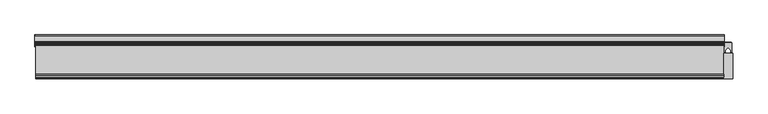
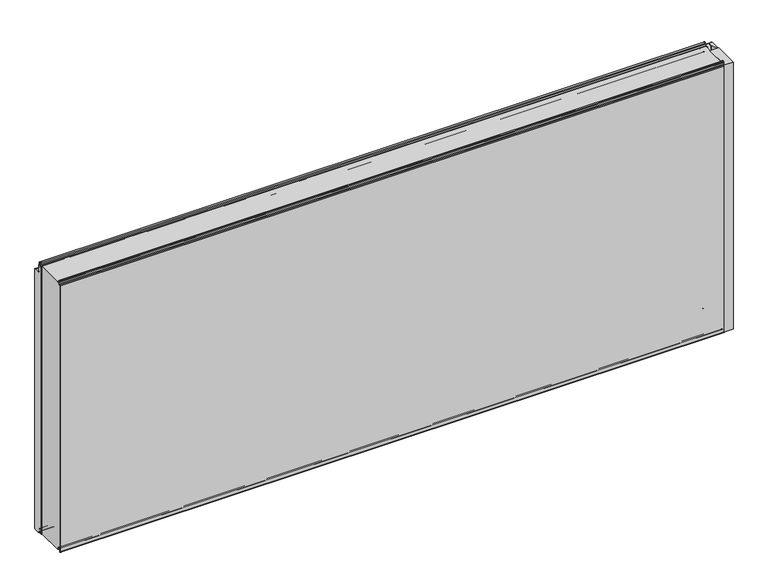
"""IFC4 building model written with IfcOpenShell, lengths in millimetres: plate geometry, Fronttop : Fronttop 150/1000."""

from ifc_helpers import new_model, si_unit, point, frame, frame_2d, origin, origin_with_axes, place, context, project, spatial, polyline, circle_curve, trimmed, segment, composite_curve, outline, extrude, source, transform, mapped, element, save
from ifc_brep_helpers import plane_surface, cylinder_surface, revolved_surface, advanced_brep


def plate_190e3803(model_context):
    return source(origin(), model_context, "Body", "SolidModel", [
        advanced_brep(
        [(-1176.5, 124.0, 1008.0), (-1176.5, 121.0, 1008.0), (-1176.5, 121.0, 1004.0), (-1176.5, 117.0, 1000.0), (-1176.5, 115.0, 1000.0), (-1176.5, 115.0, 1001.0), (-1176.5, 117.0, 1001.0), (-1176.5, 120.0, 1004.0), (-1176.5, 120.0, 1008.0), (-1176.5, 125.0, 1008.0), (-1176.5, 125.0, 1000.0), (-1176.5, 124.0, 1000.0), (1176.5, 125.0, 1008.0), (1176.5, 120.0, 1008.0), (1176.5, 120.0, 1004.0), (1176.5, 117.0, 1001.0), (1176.5, 115.0, 1001.0), (1176.5, 115.0, 1000.0), (1176.5, 117.0, 1000.0), (1176.5, 121.0, 1004.0), (1176.5, 121.0, 1008.0), (1176.5, 124.0, 1008.0), (1176.5, 124.0, 1000.0), (1176.5, 125.0, 1000.0), (-1176.5, 117.0, 2.0), (1176.5, 117.0, 2.0), (1176.5, 115.0, 2.0), (-1176.5, 115.0, 2.0), (-1176.5, 119.0, 4.0), (1176.5, 119.0, 4.0), (-1176.5, 119.0, 8.0), (1176.5, 119.0, 8.0), (-1176.5, 126.0, 8.0), (1176.5, 126.0, 8.0), (-1176.5, 126.0, 0.0), (1176.5, 126.0, 0.0), (-1176.5, 129.0, -3.0), (1176.5, 129.0, -3.0), (-1176.5, 125.0, -3.0), (-1177.5, 125.0, -3.0), (-1177.5, 147.0, -3.0), (-1176.5, 147.0, -3.0), (1176.5, 147.0, -3.0), (1177.5, 147.0, -3.0), (1177.5, 125.0, -3.0), (1176.5, 125.0, -3.0), (-1176.5, 150.0, 0.0), (1176.5, 150.0, 0.0), (-1177.5, 150.0, 0.0), (-1177.5, 150.0, 969.0), (-1176.5, 150.0, 969.0), (1176.5, 150.0, 969.0), (1177.5, 150.0, 969.0), (1177.5, 150.0, 0.0), (-1176.5, 147.0, 972.0), (1176.5, 147.0, 972.0), (-1177.5, 147.0, 972.0), (-1177.5, 128.0, 972.0), (-1176.5, 128.0, 972.0), (1176.5, 128.0, 972.0), (1177.5, 128.0, 972.0), (1177.5, 147.0, 972.0), (-1176.5, 125.0, 975.0), (1176.5, 125.0, 975.0), (-1177.5, 125.0, 975.0), (-1177.5, 125.0, 1000.0), (1177.5, 125.0, 1000.0), (1177.5, 125.0, 975.0), (-1176.5, 124.0, 975.0), (1176.5, 124.0, 975.0), (-1176.5, 128.0, 971.0), (1176.5, 128.0, 971.0), (-1176.5, 147.0, 971.0), (1176.5, 147.0, 971.0), (-1176.5, 149.0, 969.0), (1176.5, 149.0, 969.0), (-1176.5, 149.0, 0.0), (1176.5, 149.0, 0.0), (-1176.5, 147.0, -2.0), (1176.5, 147.0, -2.0), (-1176.5, 129.0, -2.0), (1176.5, 129.0, -2.0), (-1176.5, 127.0, 0.0), (1176.5, 127.0, 0.0), (-1176.5, 127.0, 8.0), (1176.5, 127.0, 8.0), (-1176.5, 118.0, 8.0), (1176.5, 118.0, 8.0), (-1176.5, 118.0, 4.0), (1176.5, 118.0, 4.0), (-1176.5, 117.0, 3.0), (1176.5, 117.0, 3.0), (-1176.5, 115.0, 3.0), (1176.5, 115.0, 3.0), (1177.5, 110.0, 1000.0), (1177.5, 110.0, 0.0), (1177.5, 125.0, 0.0), (1176.5, 125.0, 0.0), (1176.5, 110.0, 0.0), (1176.5, 110.0, 1000.0), (-1177.5, 125.0, 0.0), (-1177.5, 110.0, 0.0), (-1177.5, 110.0, 1000.0), (-1176.5, 110.0, 1000.0), (-1176.5, 110.0, 0.0), (-1176.5, 125.0, 0.0)],
        [
            (0, 1, circle_curve(frame((-1176.5, 122.5, 1008.0), z_axis=(1.0, 0.0, 0.0), x_axis=(0.0, -1.0, 0.0)), 1.5)),
            (1, 2),
            (2, 3, circle_curve(frame((-1176.5, 117.0, 1004.0), z_axis=(-1.0, 0.0, 0.0), x_axis=(0.0, -1.0, 0.0)), 4.0)),
            (3, 4),
            (4, 5),
            (5, 6),
            (6, 7, circle_curve(frame((-1176.5, 117.0, 1004.0), z_axis=(1.0, 0.0, 0.0), x_axis=(0.0, -1.0, 0.0)), 3.0)),
            (7, 8),
            (8, 9, circle_curve(frame((-1176.5, 122.5, 1008.0), z_axis=(-1.0, 0.0, 0.0), x_axis=(0.0, -1.0, 0.0)), 2.5)),
            (9, 10),
            (10, 11),
            (11, 0),
            (12, 13, circle_curve(frame((1176.5, 122.5, 1008.0), z_axis=(1.0, 0.0, 0.0), x_axis=(0.0, -1.0, 0.0)), 2.5)),
            (13, 14),
            (14, 15, circle_curve(frame((1176.5, 117.0, 1004.0), z_axis=(-1.0, 0.0, 0.0), x_axis=(0.0, -1.0, 0.0)), 3.0)),
            (15, 16),
            (16, 17),
            (17, 18),
            (18, 19, circle_curve(frame((1176.5, 117.0, 1004.0), z_axis=(1.0, 0.0, 0.0), x_axis=(0.0, -1.0, 0.0)), 4.0)),
            (19, 20),
            (20, 21, circle_curve(frame((1176.5, 122.5, 1008.0), z_axis=(-1.0, 0.0, 0.0), x_axis=(0.0, -1.0, 0.0)), 1.5)),
            (21, 22),
            (22, 23),
            (23, 12),
            (24, 25),
            (25, 26),
            (26, 27),
            (27, 24),
            (24, 28, circle_curve(frame((-1176.5, 117.0, 4.0), z_axis=(1.0, 0.0, 0.0), x_axis=(0.0, -1.0, 0.0)), 2.0)),
            (28, 29),
            (29, 25, circle_curve(frame((1176.5, 117.0, 4.0), z_axis=(-1.0, 0.0, 0.0), x_axis=(0.0, -1.0, 0.0)), 2.0)),
            (28, 30),
            (30, 31),
            (31, 29),
            (30, 32, circle_curve(frame((-1176.5, 122.5, 8.0), z_axis=(-1.0, 0.0, 0.0), x_axis=(0.0, -1.0, 0.0)), 3.5)),
            (32, 33),
            (33, 31, circle_curve(frame((1176.5, 122.5, 8.0), z_axis=(1.0, 0.0, 0.0), x_axis=(0.0, -1.0, 0.0)), 3.5)),
            (32, 34),
            (34, 35),
            (35, 33),
            (34, 36, circle_curve(frame((-1176.5, 129.0, 0.0), z_axis=(1.0, 0.0, 0.0), x_axis=(0.0, -1.0, 0.0)), 3.0)),
            (36, 37),
            (37, 35, circle_curve(frame((1176.5, 129.0, 0.0), z_axis=(-1.0, 0.0, 0.0), x_axis=(0.0, -1.0, 0.0)), 3.0)),
            (36, 38),
            (38, 39),
            (39, 40),
            (40, 41),
            (41, 42),
            (42, 43),
            (43, 44),
            (44, 45),
            (45, 37),
            (41, 46, circle_curve(frame((-1176.5, 147.0, 0.0), z_axis=(1.0, 0.0, 0.0), x_axis=(0.0, -1.0, 0.0)), 3.0)),
            (46, 47),
            (47, 42, circle_curve(frame((1176.5, 147.0, 0.0), z_axis=(-1.0, 0.0, 0.0), x_axis=(0.0, -1.0, 0.0)), 3.0)),
            (46, 48),
            (48, 49),
            (49, 50),
            (50, 51),
            (51, 52),
            (52, 53),
            (53, 47),
            (50, 54, circle_curve(frame((-1176.5, 147.0, 969.0), z_axis=(1.0, 0.0, 0.0), x_axis=(0.0, -1.0, 0.0)), 3.0)),
            (54, 55),
            (55, 51, circle_curve(frame((1176.5, 147.0, 969.0), z_axis=(-1.0, 0.0, 0.0), x_axis=(0.0, -1.0, 0.0)), 3.0)),
            (54, 56),
            (56, 57),
            (57, 58),
            (58, 59),
            (59, 60),
            (60, 61),
            (61, 55),
            (58, 62, circle_curve(frame((-1176.5, 128.0, 975.0), z_axis=(-1.0, 0.0, 0.0), x_axis=(0.0, -1.0, 0.0)), 3.0)),
            (62, 63),
            (63, 59, circle_curve(frame((1176.5, 128.0, 975.0), z_axis=(1.0, 0.0, 0.0), x_axis=(0.0, -1.0, 0.0)), 3.0)),
            (62, 64),
            (64, 65),
            (65, 10),
            (9, 12),
            (23, 66),
            (66, 67),
            (67, 63),
            (8, 13),
            (7, 14),
            (6, 15),
            (5, 16),
            (4, 17),
            (4, 3),
            (3, 18),
            (18, 17),
            (2, 19),
            (1, 20),
            (0, 21),
            (11, 68),
            (68, 69),
            (69, 22),
            (68, 70, circle_curve(frame((-1176.5, 128.0, 975.0), z_axis=(1.0, 0.0, 0.0), x_axis=(0.0, -1.0, 0.0)), 4.0)),
            (70, 71),
            (71, 69, circle_curve(frame((1176.5, 128.0, 975.0), z_axis=(-1.0, 0.0, 0.0), x_axis=(0.0, -1.0, 0.0)), 4.0)),
            (70, 72),
            (72, 73),
            (73, 71),
            (72, 74, circle_curve(frame((-1176.5, 147.0, 969.0), z_axis=(-1.0, 0.0, 0.0), x_axis=(0.0, -1.0, 0.0)), 2.0)),
            (74, 75),
            (75, 73, circle_curve(frame((1176.5, 147.0, 969.0), z_axis=(1.0, 0.0, 0.0), x_axis=(0.0, -1.0, 0.0)), 2.0)),
            (74, 76),
            (76, 77),
            (77, 75),
            (76, 78, circle_curve(frame((-1176.5, 147.0, 0.0), z_axis=(-1.0, 0.0, 0.0), x_axis=(0.0, -1.0, 0.0)), 2.0)),
            (78, 79),
            (79, 77, circle_curve(frame((1176.5, 147.0, 0.0), z_axis=(1.0, 0.0, 0.0), x_axis=(0.0, -1.0, 0.0)), 2.0)),
            (78, 80),
            (80, 81),
            (81, 79),
            (80, 82, circle_curve(frame((-1176.5, 129.0, 0.0), z_axis=(-1.0, 0.0, 0.0), x_axis=(0.0, -1.0, 0.0)), 2.0)),
            (82, 83),
            (83, 81, circle_curve(frame((1176.5, 129.0, 0.0), z_axis=(1.0, 0.0, 0.0), x_axis=(0.0, -1.0, 0.0)), 2.0)),
            (82, 84),
            (84, 85),
            (85, 83),
            (84, 86, circle_curve(frame((-1176.5, 122.5, 8.0), z_axis=(1.0, 0.0, 0.0), x_axis=(0.0, -1.0, 0.0)), 4.5)),
            (86, 87),
            (87, 85, circle_curve(frame((1176.5, 122.5, 8.0), z_axis=(-1.0, 0.0, 0.0), x_axis=(0.0, -1.0, 0.0)), 4.5)),
            (86, 88),
            (88, 89),
            (89, 87),
            (88, 90, circle_curve(frame((-1176.5, 117.0, 4.0), z_axis=(-1.0, 0.0, 0.0), x_axis=(0.0, -1.0, 0.0)), 1.0)),
            (90, 91),
            (91, 89, circle_curve(frame((1176.5, 117.0, 4.0), z_axis=(1.0, 0.0, 0.0), x_axis=(0.0, -1.0, 0.0)), 1.0)),
            (90, 92),
            (92, 93),
            (93, 91),
            (26, 93),
            (92, 27),
            (66, 94),
            (94, 95),
            (95, 96),
            (96, 44),
            (43, 53, circle_curve(frame((1177.5, 147.0, 0.0), z_axis=(1.0, 0.0, 0.0), x_axis=(0.0, 1.0, 0.0)), 3.0)),
            (52, 61, circle_curve(frame((1177.5, 147.0, 969.0), z_axis=(1.0, 0.0, 0.0), x_axis=(0.0, 1.0, 0.0)), 3.0)),
            (60, 67, circle_curve(frame((1177.5, 128.0, 975.0), z_axis=(-1.0, 0.0, 0.0), x_axis=(0.0, 1.0, 0.0)), 3.0)),
            (45, 97),
            (97, 98),
            (98, 99),
            (99, 17),
            (18, 22),
            (99, 94),
            (98, 95),
            (97, 96),
            (64, 57, circle_curve(frame((-1177.5, 128.0, 975.0), z_axis=(1.0, 0.0, 0.0), x_axis=(0.0, 1.0, 0.0)), 3.0)),
            (56, 49, circle_curve(frame((-1177.5, 147.0, 969.0), z_axis=(-1.0, 0.0, 0.0), x_axis=(0.0, 1.0, 0.0)), 3.0)),
            (48, 40, circle_curve(frame((-1177.5, 147.0, 0.0), z_axis=(-1.0, 0.0, 0.0), x_axis=(0.0, 1.0, 0.0)), 3.0)),
            (39, 100),
            (100, 101),
            (101, 102),
            (102, 65),
            (103, 104),
            (104, 105),
            (105, 38),
            (11, 3),
            (4, 103),
            (102, 103),
            (101, 104),
            (100, 105),
        ],
        [
            plane_surface(frame((-1176.5, 0.0, 0.0), z_axis=(-1.0, 0.0, 0.0), x_axis=(0.0, 0.0, 1.0))),
            plane_surface(frame((1176.5, 0.0, 0.0), z_axis=(1.0, 0.0, 0.0), x_axis=(0.0, 0.0, 1.0))),
            plane_surface(frame((-1176.5, 117.0, 2.0), z_axis=(0.0, 0.0, -1.0), x_axis=(1.0, 0.0, 0.0))),
            cylinder_surface(frame((-1176.5, 117.0, 4.0), z_axis=(-1.0, 0.0, 0.0), x_axis=(0.0, -1.0, 0.0)), 2.0),
            plane_surface(frame((-1176.5, 119.0, 8.0), z_axis=(0.0, 1.0, 0.0), x_axis=(1.0, 0.0, 0.0))),
            revolved_surface(polyline([(1176.5, 119.0, 8.0), (-1176.5, 119.0, 8.0)]), (-1176.5, 122.5, 8.0), (1.0, 0.0, 0.0)),
            plane_surface(frame((-1176.5, 126.0, 0.0), z_axis=(0.0, -1.0, 0.0), x_axis=(1.0, 0.0, 0.0))),
            cylinder_surface(frame((-1176.5, 129.0, 0.0), z_axis=(-1.0, 0.0, 0.0), x_axis=(0.0, -1.0, 0.0)), 3.0),
            plane_surface(frame((-1176.5, 147.0, -3.0), z_axis=(0.0, 0.0, -1.0), x_axis=(1.0, 0.0, 0.0))),
            cylinder_surface(frame((-1176.5, 147.0, 0.0), z_axis=(-1.0, 0.0, 0.0), x_axis=(0.0, -1.0, 0.0)), 3.0),
            plane_surface(frame((-1176.5, 150.0, 969.0), z_axis=(0.0, 1.0, 0.0), x_axis=(1.0, 0.0, 0.0))),
            cylinder_surface(frame((-1176.5, 147.0, 969.0), z_axis=(-1.0, 0.0, 0.0), x_axis=(0.0, -1.0, 0.0)), 3.0),
            plane_surface(frame((-1176.5, 128.0, 972.0), z_axis=(0.0, 0.0, 1.0), x_axis=(1.0, 0.0, 0.0))),
            revolved_surface(polyline([(1176.5, 125.0, 975.0), (-1176.5, 125.0, 975.0)]), (-1176.5, 128.0, 975.0), (1.0, 0.0, 0.0)),
            plane_surface(frame((-1176.5, 125.0, 1008.0), z_axis=(0.0, 1.0, 0.0), x_axis=(1.0, 0.0, 0.0))),
            cylinder_surface(frame((-1176.5, 122.5, 1008.0), z_axis=(-1.0, 0.0, 0.0), x_axis=(0.0, -1.0, 0.0)), 2.5),
            plane_surface(frame((-1176.5, 120.0, 1004.0), z_axis=(0.0, -1.0, 0.0), x_axis=(1.0, 0.0, 0.0))),
            revolved_surface(polyline([(1176.5, 114.0, 1004.0), (-1176.5, 114.0, 1004.0)]), (-1176.5, 117.0, 1004.0), (1.0, 0.0, 0.0)),
            plane_surface(frame((-1176.5, 115.0, 1001.0), z_axis=(0.0, 0.0, 1.0), x_axis=(1.0, 0.0, 0.0))),
            plane_surface(frame((-1176.5, 115.0, 1000.0), z_axis=(0.0, -1.0, 0.0), x_axis=(1.0, 0.0, 0.0))),
            plane_surface(frame((-1176.5, 117.0, 1000.0), z_axis=(0.0, 0.0, -1.0), x_axis=(1.0, 0.0, 0.0))),
            cylinder_surface(frame((-1176.5, 117.0, 1004.0), z_axis=(-1.0, 0.0, 0.0), x_axis=(0.0, -1.0, 0.0)), 4.0),
            plane_surface(frame((-1176.5, 121.0, 1008.0), z_axis=(0.0, 1.0, 0.0), x_axis=(1.0, 0.0, 0.0))),
            revolved_surface(polyline([(1176.5, 121.0, 1008.0), (-1176.5, 121.0, 1008.0)]), (-1176.5, 122.5, 1008.0), (1.0, 0.0, 0.0)),
            plane_surface(frame((-1176.5, 124.0, 975.0), z_axis=(0.0, -1.0, 0.0), x_axis=(1.0, 0.0, 0.0))),
            cylinder_surface(frame((-1176.5, 128.0, 975.0), z_axis=(-1.0, 0.0, 0.0), x_axis=(0.0, -1.0, 0.0)), 4.0),
            plane_surface(frame((-1176.5, 147.0, 971.0), z_axis=(0.0, 0.0, -1.0), x_axis=(1.0, 0.0, 0.0))),
            revolved_surface(polyline([(1176.5, 145.0, 969.0), (-1176.5, 145.0, 969.0)]), (-1176.5, 147.0, 969.0), (1.0, 0.0, 0.0)),
            plane_surface(frame((-1176.5, 149.0, 0.0), z_axis=(0.0, -1.0, 0.0), x_axis=(1.0, 0.0, 0.0))),
            revolved_surface(polyline([(1176.5, 145.0, 0.0), (-1176.5, 145.0, 0.0)]), (-1176.5, 147.0, 0.0), (1.0, 0.0, 0.0)),
            plane_surface(frame((-1176.5, 129.0, -2.0), z_axis=(0.0, 0.0, 1.0), x_axis=(1.0, 0.0, 0.0))),
            revolved_surface(polyline([(1176.5, 127.0, 0.0), (-1176.5, 127.0, 0.0)]), (-1176.5, 129.0, 0.0), (1.0, 0.0, 0.0)),
            plane_surface(frame((-1176.5, 127.0, 8.0), z_axis=(0.0, 1.0, 0.0), x_axis=(1.0, 0.0, 0.0))),
            cylinder_surface(frame((-1176.5, 122.5, 8.0), z_axis=(-1.0, 0.0, 0.0), x_axis=(0.0, -1.0, 0.0)), 4.5),
            plane_surface(frame((-1176.5, 118.0, 4.0), z_axis=(0.0, -1.0, 0.0), x_axis=(1.0, 0.0, 0.0))),
            revolved_surface(polyline([(1176.5, 116.0, 4.0), (-1176.5, 116.0, 4.0)]), (-1176.5, 117.0, 4.0), (1.0, 0.0, 0.0)),
            plane_surface(frame((-1176.5, 115.0, 3.0), z_axis=(0.0, 0.0, 1.0), x_axis=(1.0, 0.0, 0.0))),
            plane_surface(frame((-1176.5, 115.0, 2.0), z_axis=(0.0, -1.0, 0.0), x_axis=(1.0, 0.0, 0.0))),
            plane_surface(frame((1177.5, 125.0, 1000.0), z_axis=(1.0, 0.0, 0.0), x_axis=(0.0, -1.0, 0.0))),
            plane_surface(frame((1176.5, 125.0, 1000.0), z_axis=(-1.0, 0.0, 0.0), x_axis=(0.0, 1.0, 0.0))),
            plane_surface(frame((1177.5, 125.0, 1000.0), z_axis=(0.0, 0.0, 1.0), x_axis=(-1.0, 0.0, 0.0))),
            plane_surface(frame((1177.5, 110.0, 1000.0), z_axis=(0.0, -1.0, 0.0), x_axis=(-1.0, 0.0, 0.0))),
            plane_surface(frame((1177.5, 110.0, 0.0), z_axis=(0.0, 0.0, -1.0), x_axis=(-1.0, 0.0, 0.0))),
            cylinder_surface(frame((1176.5, 147.0, 0.0), z_axis=(1.0, 0.0, 0.0), x_axis=(0.0, 1.0, 0.0)), 3.0),
            cylinder_surface(frame((1176.5, 147.0, 969.0), z_axis=(1.0, 0.0, 0.0), x_axis=(0.0, 1.0, 0.0)), 3.0),
            revolved_surface(polyline([(1176.5, 131.0, 975.0), (1177.5, 131.0, 975.0)]), (1176.5, 128.0, 975.0), (-1.0, 0.0, 0.0)),
            plane_surface(frame((-1177.5, 125.0, 1000.0), z_axis=(-1.0, 0.0, 0.0), x_axis=(0.0, 1.0, 0.0))),
            plane_surface(frame((-1176.5, 125.0, 1000.0), z_axis=(1.0, 0.0, 0.0), x_axis=(0.0, -1.0, 0.0))),
            plane_surface(frame((-1176.5, 125.0, 1000.0), z_axis=(0.0, 0.0, 1.0), x_axis=(-1.0, 0.0, 0.0))),
            plane_surface(frame((-1176.5, 110.0, 1000.0), z_axis=(0.0, -1.0, 0.0), x_axis=(-1.0, 0.0, 0.0))),
            plane_surface(frame((-1176.5, 110.0, 0.0), z_axis=(0.0, 0.0, -1.0), x_axis=(-1.0, 0.0, 0.0))),
            cylinder_surface(frame((-1177.5, 147.0, 0.0), z_axis=(1.0, 0.0, 0.0), x_axis=(0.0, 1.0, 0.0)), 3.0),
            cylinder_surface(frame((-1177.5, 147.0, 969.0), z_axis=(1.0, 0.0, 0.0), x_axis=(0.0, 1.0, 0.0)), 3.0),
            revolved_surface(polyline([(-1177.5, 131.0, 975.0), (-1176.5, 131.0, 975.0)]), (-1177.5, 128.0, 975.0), (-1.0, 0.0, 0.0)),
            plane_surface(frame((1177.5, 125.0, 0.0), z_axis=(0.0, -1.0, 0.0), x_axis=(-1.0, 0.0, 0.0))),
            plane_surface(frame((-1176.5, 125.0, 0.0), z_axis=(0.0, -1.0, 0.0), x_axis=(-1.0, 0.0, 0.0))),
        ],
        [
            (0, [[1, 2, 3, 4, 5, 6, 7, 8, 9, 10, 11, 12]]),
            (1, [[13, 14, 15, 16, 17, 18, 19, 20, 21, 22, 23, 24]]),
            (2, [[25, 26, 27, 28]]),
            (3, [[-25, 29, 30, 31]]),
            (4, [[-30, 32, 33, 34]]),
            (5, [[-33, 35, 36, 37]]),
            (6, [[-36, 38, 39, 40]]),
            (7, [[-39, 41, 42, 43]]),
            (8, [[-42, 44, 45, 46, 47, 48, 49, 50, 51, 52]]),
            (9, [[-48, 53, 54, 55]]),
            (10, [[-54, 56, 57, 58, 59, 60, 61, 62]]),
            (11, [[-59, 63, 64, 65]]),
            (12, [[-64, 66, 67, 68, 69, 70, 71, 72]]),
            (13, [[-69, 73, 74, 75]]),
            (14, [[-74, 76, 77, 78, -10, 79, -24, 80, 81, 82]]),
            (15, [[-9, 83, -13, -79]]),
            (16, [[-8, 84, -14, -83]]),
            (17, [[-7, 85, -15, -84]]),
            (18, [[-6, 86, -16, -85]]),
            (19, [[-5, 87, -17, -86]]),
            (20, [[-87, 88, 89, 90]]),
            (21, [[-3, 91, -19, -89]]),
            (22, [[-2, 92, -20, -91]]),
            (23, [[-1, 93, -21, -92]]),
            (24, [[-93, -12, 94, 95, 96, -22]]),
            (25, [[-95, 97, 98, 99]]),
            (26, [[-98, 100, 101, 102]]),
            (27, [[-101, 103, 104, 105]]),
            (28, [[-104, 106, 107, 108]]),
            (29, [[-107, 109, 110, 111]]),
            (30, [[-110, 112, 113, 114]]),
            (31, [[-113, 115, 116, 117]]),
            (32, [[-116, 118, 119, 120]]),
            (33, [[-119, 121, 122, 123]]),
            (34, [[-122, 124, 125, 126]]),
            (35, [[-125, 127, 128, 129]]),
            (36, [[-128, 130, 131, 132]]),
            (37, [[-27, 133, -131, 134]]),
            (38, [[135, 136, 137, 138, -50, 139, -61, 140, -71, 141, -81]]),
            (39, [[142, 143, 144, 145, -90, 146, -96, -99, -102, -105, -108, -111, -114, -117, -120, -123, -126, -129, -132, -133, -26, -31, -34, -37, -40, -43, -52]]),
            (40, [[-135, -80, -23, -146, -18, -145, 147]]),
            (41, [[-136, -147, -144, 148]]),
            (42, [[-137, -148, -143, 149]]),
            (43, [[-139, -49, -55, -62]]),
            (44, [[-140, -60, -65, -72]]),
            (45, [[-141, -70, -75, -82]]),
            (46, [[-77, 150, -67, 151, -57, 152, -46, 153, 154, 155, 156]]),
            (47, [[157, 158, 159, -44, -41, -38, -35, -32, -29, -28, -134, -130, -127, -124, -121, -118, -115, -112, -109, -106, -103, -100, -97, -94, 160, -88, 161]]),
            (48, [[-156, 162, -161, -4, -160, -11, -78]]),
            (49, [[-155, 163, -157, -162]]),
            (50, [[-154, 164, -158, -163]]),
            (51, [[-152, -56, -53, -47]]),
            (52, [[-151, -66, -63, -58]]),
            (53, [[-150, -76, -73, -68]]),
            (54, [[-138, -149, -142, -51]]),
            (55, [[-153, -45, -159, -164]]),
        ],
    ),
        extrude(outline(composite_curve([segment(polyline([(1177.4998455, 123.5), (1189.25, 123.5), (1189.25, 107.5), (1190.75, 107.5), (1190.75, 123.5), (1202.5001545, 123.5), (1202.5001545, 90.0), (1199.75, 90.0), (1199.75, 92.5)]), True, "CONTINUOUS"), segment(trimmed(circle_curve(frame_2d((1181.9661979, 89.3183984)), 18.0661619), [point((1199.75, 92.5))], [point((1190.0, 105.5))], True, "CARTESIAN"), True, "CONTINUOUS"), segment(trimmed(circle_curve(frame_2d((1198.0338021, 89.3183984)), 18.0661619), [point((1190.0, 105.5))], [point((1180.25, 92.5))], True, "CARTESIAN"), True, "CONTINUOUS"), segment(polyline([(1180.25, 92.5), (1180.25, 90.0), (1177.4998455, 90.0), (1177.4998455, 123.5)]), True, "CONTINUOUS")], self_intersect=False)), origin_with_axes(), (0.0, 0.0, 1.0), 1000.0),
        extrude(outline(polyline([(1205.5, 0.0), (1174.5, 0.0), (1174.5, 88.0), (1205.5, 88.0), (1205.5, 0.0)])), origin_with_axes(), (0.0, 0.0, 1.0), 1000.0),
        extrude(outline(polyline([(1178.4948846, 125.0), (1201.5051154, 125.0), (1201.5051154, 123.5), (1190.6502496, 123.5), (1190.6502496, 109.0759655), (1189.35, 109.0759655), (1189.35, 123.5), (1178.4948846, 123.5), (1178.4948846, 125.0)])), origin_with_axes(), (0.0, 0.0, 1.0), 1000.0),
        advanced_brep(
        [(-1174.5, 13.0, 1001.0), (-1174.5, 15.0, 1001.0), (-1174.5, 15.0, 1000.0), (-1174.5, 13.0, 1000.0), (-1174.5, 9.0, 1004.0), (-1174.5, 9.0, 1008.0), (-1174.5, 6.0, 1008.0), (-1174.5, 6.0, 999.5), (-1174.5, 2.1134897, 996.0214069), (-1174.5, 1.0, 995.0), (-1174.5, 1.0, -0.5), (-1174.5, 3.0, -0.5), (-1174.5, 3.0, 8.0), (-1174.5, 12.0, 8.0), (-1174.5, 12.0, 4.0), (-1174.5, 13.0, 3.0), (-1174.5, 15.0, 3.0), (-1174.5, 15.0, 2.0), (-1174.5, 13.0, 2.0), (-1174.5, 11.0, 4.0), (-1174.5, 11.0, 8.0), (-1174.5, 4.0, 8.0), (-1174.5, 4.0, -0.5), (-1174.5, 0.0, -0.5), (-1174.5, 0.0, 995.0), (-1174.5, 2.220863, 996.9877675), (-1174.5, 5.0, 999.5), (-1174.5, 5.0, 1008.0), (-1174.5, 10.0, 1008.0), (-1174.5, 10.0, 1004.0), (1174.5, 13.0, 1001.0), (1174.5, 10.0, 1004.0), (1174.5, 10.0, 1008.0), (1174.5, 5.0, 1008.0), (1174.5, 5.0, 999.5), (1174.5, 2.2239212, 997.0152907), (1174.5, 0.0, 995.0), (1174.5, 0.0, -0.5), (1174.5, 4.0, -0.5), (1174.5, 4.0, 8.0), (1174.5, 11.0, 8.0), (1174.5, 11.0, 4.0), (1174.5, 13.0, 2.0), (1174.5, 15.0, 2.0), (1174.5, 15.0, 3.0), (1174.5, 13.0, 3.0), (1174.5, 12.0, 4.0), (1174.5, 12.0, 8.0), (1174.5, 3.0, 8.0), (1174.5, 3.0, -0.5), (1174.5, 1.0, -0.5), (1174.5, 1.0, 995.0), (1174.5, 2.1104315, 995.9938837), (1174.5, 6.0, 999.5), (1174.5, 6.0, 1008.0), (1174.5, 9.0, 1008.0), (1174.5, 9.0, 1004.0), (1174.5, 13.0, 1000.0), (1174.5, 15.0, 1000.0), (1174.5, 15.0, 1001.0)],
        [
            (0, 1),
            (1, 2),
            (2, 3),
            (3, 4, circle_curve(frame((-1174.5, 13.0, 1004.0), z_axis=(-1.0, 0.0, 0.0), x_axis=(0.0, -1.0, 0.0)), 4.0)),
            (4, 5),
            (5, 6, circle_curve(frame((-1174.5, 7.5, 1008.0), z_axis=(1.0, 0.0, 0.0), x_axis=(0.0, -1.0, 0.0)), 1.5)),
            (6, 7),
            (7, 8, circle_curve(frame((-1174.5, 2.5, 999.5), z_axis=(-1.0, 0.0, 0.0), x_axis=(0.0, -1.0, 0.0)), 3.5)),
            (8, 9, circle_curve(frame((-1174.5, 2.0, 995.0), z_axis=(1.0, 0.0, 0.0), x_axis=(0.0, -1.0, 0.0)), 1.0)),
            (9, 10),
            (10, 11, circle_curve(frame((-1174.5, 2.0, -0.5), z_axis=(1.0, 0.0, 0.0), x_axis=(0.0, -1.0, 0.0)), 1.0)),
            (11, 12),
            (12, 13, circle_curve(frame((-1174.5, 7.5, 8.0), z_axis=(-1.0, 0.0, 0.0), x_axis=(0.0, -1.0, 0.0)), 4.5)),
            (13, 14),
            (14, 15, circle_curve(frame((-1174.5, 13.0, 4.0), z_axis=(1.0, 0.0, 0.0), x_axis=(0.0, -1.0, 0.0)), 1.0)),
            (15, 16),
            (16, 17),
            (17, 18),
            (18, 19, circle_curve(frame((-1174.5, 13.0, 4.0), z_axis=(-1.0, 0.0, 0.0), x_axis=(0.0, -1.0, 0.0)), 2.0)),
            (19, 20),
            (20, 21, circle_curve(frame((-1174.5, 7.5, 8.0), z_axis=(1.0, 0.0, 0.0), x_axis=(0.0, -1.0, 0.0)), 3.5)),
            (21, 22),
            (22, 23, circle_curve(frame((-1174.5, 2.0, -0.5), z_axis=(-1.0, 0.0, 0.0), x_axis=(0.0, -1.0, 0.0)), 2.0)),
            (23, 24),
            (24, 25, circle_curve(frame((-1174.5, 2.0, 995.0), z_axis=(-1.0, 0.0, 0.0), x_axis=(0.0, -1.0, 0.0)), 2.0)),
            (25, 26, circle_curve(frame((-1174.5, 2.5, 999.5), z_axis=(1.0, 0.0, 0.0), x_axis=(0.0, -1.0, 0.0)), 2.5)),
            (26, 27),
            (27, 28, circle_curve(frame((-1174.5, 7.5, 1008.0), z_axis=(-1.0, 0.0, 0.0), x_axis=(0.0, -1.0, 0.0)), 2.5)),
            (28, 29),
            (29, 0, circle_curve(frame((-1174.5, 13.0, 1004.0), z_axis=(1.0, 0.0, 0.0), x_axis=(0.0, -1.0, 0.0)), 3.0)),
            (30, 31, circle_curve(frame((1174.5, 13.0, 1004.0), z_axis=(-1.0, 0.0, 0.0), x_axis=(0.0, -1.0, 0.0)), 3.0)),
            (31, 32),
            (32, 33, circle_curve(frame((1174.5, 7.5, 1008.0), z_axis=(1.0, 0.0, 0.0), x_axis=(0.0, -1.0, 0.0)), 2.5)),
            (33, 34),
            (34, 35, circle_curve(frame((1174.5, 2.5, 999.5), z_axis=(-1.0, 0.0, 0.0), x_axis=(0.0, -1.0, 0.0)), 2.5)),
            (35, 36, circle_curve(frame((1174.5, 2.0, 995.0), z_axis=(1.0, 0.0, 0.0), x_axis=(0.0, -1.0, 0.0)), 2.0)),
            (36, 37),
            (37, 38, circle_curve(frame((1174.5, 2.0, -0.5), z_axis=(1.0, 0.0, 0.0), x_axis=(0.0, -1.0, 0.0)), 2.0)),
            (38, 39),
            (39, 40, circle_curve(frame((1174.5, 7.5, 8.0), z_axis=(-1.0, 0.0, 0.0), x_axis=(0.0, -1.0, 0.0)), 3.5)),
            (40, 41),
            (41, 42, circle_curve(frame((1174.5, 13.0, 4.0), z_axis=(1.0, 0.0, 0.0), x_axis=(0.0, -1.0, 0.0)), 2.0)),
            (42, 43),
            (43, 44),
            (44, 45),
            (45, 46, circle_curve(frame((1174.5, 13.0, 4.0), z_axis=(-1.0, 0.0, 0.0), x_axis=(0.0, -1.0, 0.0)), 1.0)),
            (46, 47),
            (47, 48, circle_curve(frame((1174.5, 7.5, 8.0), z_axis=(1.0, 0.0, 0.0), x_axis=(0.0, -1.0, 0.0)), 4.5)),
            (48, 49),
            (49, 50, circle_curve(frame((1174.5, 2.0, -0.5), z_axis=(-1.0, 0.0, 0.0), x_axis=(0.0, -1.0, 0.0)), 1.0)),
            (50, 51),
            (51, 52, circle_curve(frame((1174.5, 2.0, 995.0), z_axis=(-1.0, 0.0, 0.0), x_axis=(0.0, -1.0, 0.0)), 1.0)),
            (52, 53, circle_curve(frame((1174.5, 2.5, 999.5), z_axis=(1.0, 0.0, 0.0), x_axis=(0.0, -1.0, 0.0)), 3.5)),
            (53, 54),
            (54, 55, circle_curve(frame((1174.5, 7.5, 1008.0), z_axis=(-1.0, 0.0, 0.0), x_axis=(0.0, -1.0, 0.0)), 1.5)),
            (55, 56),
            (56, 57, circle_curve(frame((1174.5, 13.0, 1004.0), z_axis=(1.0, 0.0, 0.0), x_axis=(0.0, -1.0, 0.0)), 4.0)),
            (57, 58),
            (58, 59),
            (59, 30),
            (0, 30),
            (59, 1),
            (58, 2),
            (57, 3),
            (56, 4),
            (55, 5),
            (54, 6),
            (53, 7),
            (52, 8),
            (51, 9),
            (50, 10),
            (49, 11),
            (48, 12),
            (47, 13),
            (46, 14),
            (45, 15),
            (44, 16),
            (43, 17),
            (42, 18),
            (41, 19),
            (40, 20),
            (39, 21),
            (38, 22),
            (37, 23),
            (36, 24),
            (35, 25),
            (34, 26),
            (33, 27),
            (32, 28),
            (31, 29),
        ],
        [
            plane_surface(frame((-1174.5, 0.0, 0.0), z_axis=(-1.0, 0.0, 0.0), x_axis=(0.0, 0.0, 1.0))),
            plane_surface(frame((1174.5, 0.0, 0.0), z_axis=(1.0, 0.0, 0.0), x_axis=(0.0, 0.0, 1.0))),
            plane_surface(frame((-1174.5, 13.0, 1001.0), z_axis=(0.0, 0.0, 1.0), x_axis=(1.0, 0.0, 0.0))),
            plane_surface(frame((-1174.5, 15.0, 1001.0), z_axis=(0.0, 1.0, 0.0), x_axis=(1.0, 0.0, 0.0))),
            plane_surface(frame((-1174.5, 15.0, 1000.0), z_axis=(0.0, 0.0, -1.0), x_axis=(1.0, 0.0, 0.0))),
            cylinder_surface(frame((-1174.5, 13.0, 1004.0), z_axis=(-1.0, 0.0, 0.0), x_axis=(0.0, -1.0, 0.0)), 4.0),
            plane_surface(frame((-1174.5, 9.0, 1004.0), z_axis=(0.0, -1.0, 0.0), x_axis=(1.0, 0.0, 0.0))),
            revolved_surface(polyline([(1174.5, 6.0, 1008.0), (-1174.5, 6.0, 1008.0)]), (-1174.5, 7.5, 1008.0), (1.0, 0.0, 0.0)),
            plane_surface(frame((-1174.5, 6.0, 1008.0), z_axis=(0.0, 1.0, 0.0), x_axis=(1.0, 0.0, 0.0))),
            cylinder_surface(frame((-1174.5, 2.5, 999.5), z_axis=(-1.0, 0.0, 0.0), x_axis=(0.0, -1.0, 0.0)), 3.5),
            revolved_surface(polyline([(1174.5, 1.0, 995.0), (-1174.5, 1.0, 995.0)]), (-1174.5, 2.0, 995.0), (1.0, 0.0, 0.0)),
            plane_surface(frame((-1174.5, 1.0, 995.0), z_axis=(0.0, 1.0, 0.0), x_axis=(1.0, 0.0, 0.0))),
            revolved_surface(polyline([(1174.5, 1.0, -0.5), (-1174.5, 1.0, -0.5)]), (-1174.5, 2.0, -0.5), (1.0, 0.0, 0.0)),
            plane_surface(frame((-1174.5, 3.0, -0.5), z_axis=(0.0, -1.0, 0.0), x_axis=(1.0, 0.0, 0.0))),
            cylinder_surface(frame((-1174.5, 7.5, 8.0), z_axis=(-1.0, 0.0, 0.0), x_axis=(0.0, -1.0, 0.0)), 4.5),
            plane_surface(frame((-1174.5, 12.0, 8.0), z_axis=(0.0, 1.0, 0.0), x_axis=(1.0, 0.0, 0.0))),
            revolved_surface(polyline([(1174.5, 12.0, 4.0), (-1174.5, 12.0, 4.0)]), (-1174.5, 13.0, 4.0), (1.0, 0.0, 0.0)),
            plane_surface(frame((-1174.5, 13.0, 3.0), z_axis=(0.0, 0.0, 1.0), x_axis=(1.0, 0.0, 0.0))),
            plane_surface(frame((-1174.5, 15.0, 3.0), z_axis=(0.0, 1.0, 0.0), x_axis=(1.0, 0.0, 0.0))),
            plane_surface(frame((-1174.5, 15.0, 2.0), z_axis=(0.0, 0.0, -1.0), x_axis=(1.0, 0.0, 0.0))),
            cylinder_surface(frame((-1174.5, 13.0, 4.0), z_axis=(-1.0, 0.0, 0.0), x_axis=(0.0, -1.0, 0.0)), 2.0),
            plane_surface(frame((-1174.5, 11.0, 4.0), z_axis=(0.0, -1.0, 0.0), x_axis=(1.0, 0.0, 0.0))),
            revolved_surface(polyline([(1174.5, 4.0, 8.0), (-1174.5, 4.0, 8.0)]), (-1174.5, 7.5, 8.0), (1.0, 0.0, 0.0)),
            plane_surface(frame((-1174.5, 4.0, 8.0), z_axis=(0.0, 1.0, 0.0), x_axis=(1.0, 0.0, 0.0))),
            cylinder_surface(frame((-1174.5, 2.0, -0.5), z_axis=(-1.0, 0.0, 0.0), x_axis=(0.0, -1.0, 0.0)), 2.0),
            plane_surface(frame((-1174.5, 0.0, -0.5), z_axis=(0.0, -1.0, 0.0), x_axis=(1.0, 0.0, 0.0))),
            cylinder_surface(frame((-1174.5, 2.0, 995.0), z_axis=(-1.0, 0.0, 0.0), x_axis=(0.0, -1.0, 0.0)), 2.0),
            revolved_surface(polyline([(1174.5, 0.0, 999.5), (-1174.5, 0.0, 999.5)]), (-1174.5, 2.5, 999.5), (1.0, 0.0, 0.0)),
            plane_surface(frame((-1174.5, 5.0, 999.5), z_axis=(0.0, -1.0, 0.0), x_axis=(1.0, 0.0, 0.0))),
            cylinder_surface(frame((-1174.5, 7.5, 1008.0), z_axis=(-1.0, 0.0, 0.0), x_axis=(0.0, -1.0, 0.0)), 2.5),
            plane_surface(frame((-1174.5, 10.0, 1008.0), z_axis=(0.0, 1.0, 0.0), x_axis=(1.0, 0.0, 0.0))),
            revolved_surface(polyline([(1174.5, 10.0, 1004.0), (-1174.5, 10.0, 1004.0)]), (-1174.5, 13.0, 1004.0), (1.0, 0.0, 0.0)),
        ],
        [
            (0, [[1, 2, 3, 4, 5, 6, 7, 8, 9, 10, 11, 12, 13, 14, 15, 16, 17, 18, 19, 20, 21, 22, 23, 24, 25, 26, 27, 28, 29, 30]]),
            (1, [[31, 32, 33, 34, 35, 36, 37, 38, 39, 40, 41, 42, 43, 44, 45, 46, 47, 48, 49, 50, 51, 52, 53, 54, 55, 56, 57, 58, 59, 60]]),
            (2, [[-1, 61, -60, 62]]),
            (3, [[-2, -62, -59, 63]]),
            (4, [[-3, -63, -58, 64]]),
            (5, [[-4, -64, -57, 65]]),
            (6, [[-5, -65, -56, 66]]),
            (7, [[-6, -66, -55, 67]]),
            (8, [[-7, -67, -54, 68]]),
            (9, [[-8, -68, -53, 69]]),
            (10, [[-9, -69, -52, 70]]),
            (11, [[-10, -70, -51, 71]]),
            (12, [[-11, -71, -50, 72]]),
            (13, [[-12, -72, -49, 73]]),
            (14, [[-13, -73, -48, 74]]),
            (15, [[-14, -74, -47, 75]]),
            (16, [[-15, -75, -46, 76]]),
            (17, [[-16, -76, -45, 77]]),
            (18, [[-17, -77, -44, 78]]),
            (19, [[-18, -78, -43, 79]]),
            (20, [[-19, -79, -42, 80]]),
            (21, [[-20, -80, -41, 81]]),
            (22, [[-21, -81, -40, 82]]),
            (23, [[-22, -82, -39, 83]]),
            (24, [[-23, -83, -38, 84]]),
            (25, [[-24, -84, -37, 85]]),
            (26, [[-25, -85, -36, 86]]),
            (27, [[-26, -86, -35, 87]]),
            (28, [[-27, -87, -34, 88]]),
            (29, [[-28, -88, -33, 89]]),
            (30, [[-29, -89, -32, 90]]),
            (31, [[-30, -90, -31, -61]]),
        ],
    ),
        extrude(outline(composite_curve([segment(polyline([(15.0, 3.0), (13.0, 3.0)]), True, "CONTINUOUS"), segment(trimmed(circle_curve(frame_2d((13.0, 4.0)), 1.0), [point((13.0, 3.0))], [point((12.0, 4.0))], False, "CARTESIAN"), True, "CONTINUOUS"), segment(polyline([(12.0, 4.0), (12.0, 8.0)]), True, "CONTINUOUS"), segment(trimmed(circle_curve(frame_2d((7.5, 8.0)), 4.5), [point((12.0, 8.0))], [point((3.0, 8.0))], True, "CARTESIAN"), True, "CONTINUOUS"), segment(polyline([(3.0, 8.0), (3.0, -0.5)]), True, "CONTINUOUS"), segment(trimmed(circle_curve(frame_2d((2.0, -0.5)), 1.0), [point((3.0, -0.5))], [point((1.0, -0.5))], False, "CARTESIAN"), True, "CONTINUOUS"), segment(polyline([(1.0, -0.5), (1.0, 995.0278643)]), True, "CONTINUOUS"), segment(trimmed(circle_curve(frame_2d((2.0, 995.0278643)), 1.0), [point((1.0, 995.0278643))], [point((2.1111111, 996.0216723))], False, "CARTESIAN"), True, "CONTINUOUS"), segment(trimmed(circle_curve(frame_2d((2.5, 999.5)), 3.5), [point((2.1111111, 996.0216723))], [point((6.0, 999.5))], True, "CARTESIAN"), True, "CONTINUOUS"), segment(polyline([(6.0, 999.5), (6.0, 1008.0)]), True, "CONTINUOUS"), segment(trimmed(circle_curve(frame_2d((7.5, 1008.0)), 1.5), [point((6.0, 1008.0))], [point((9.0, 1008.0))], False, "CARTESIAN"), True, "CONTINUOUS"), segment(polyline([(9.0, 1008.0), (9.0, 1004.0)]), True, "CONTINUOUS"), segment(trimmed(circle_curve(frame_2d((13.0, 1004.0)), 4.0), [point((9.0, 1004.0))], [point((13.0, 1000.0))], True, "CARTESIAN"), True, "CONTINUOUS"), segment(polyline([(13.0, 1000.0), (117.0, 1000.0)]), True, "CONTINUOUS"), segment(trimmed(circle_curve(frame_2d((117.0, 1004.0)), 4.0), [point((117.0, 1000.0))], [point((121.0, 1004.0))], True, "CARTESIAN"), True, "CONTINUOUS"), segment(polyline([(121.0, 1004.0), (121.0, 1008.0)]), True, "CONTINUOUS"), segment(trimmed(circle_curve(frame_2d((122.5, 1008.0)), 1.5), [point((121.0, 1008.0))], [point((124.0, 1008.0))], False, "CARTESIAN"), True, "CONTINUOUS"), segment(polyline([(124.0, 1008.0), (124.0, 975.0)]), True, "CONTINUOUS"), segment(trimmed(circle_curve(frame_2d((128.0, 975.0)), 4.0), [point((124.0, 975.0))], [point((128.0, 971.0))], True, "CARTESIAN"), True, "CONTINUOUS"), segment(polyline([(128.0, 971.0), (147.0, 971.0)]), True, "CONTINUOUS"), segment(trimmed(circle_curve(frame_2d((147.0, 969.0)), 2.0), [point((147.0, 971.0))], [point((149.0, 969.0))], False, "CARTESIAN"), True, "CONTINUOUS"), segment(polyline([(149.0, 969.0), (149.0, 0.0)]), True, "CONTINUOUS"), segment(trimmed(circle_curve(frame_2d((147.0, 0.0)), 2.0), [point((149.0, 0.0))], [point((147.0, -2.0))], False, "CARTESIAN"), True, "CONTINUOUS"), segment(polyline([(147.0, -2.0), (129.0, -2.0)]), True, "CONTINUOUS"), segment(trimmed(circle_curve(frame_2d((129.0, 0.0)), 2.0), [point((129.0, -2.0))], [point((127.0, 0.0))], False, "CARTESIAN"), True, "CONTINUOUS"), segment(polyline([(127.0, 0.0), (127.0, 8.0)]), True, "CONTINUOUS"), segment(trimmed(circle_curve(frame_2d((122.5, 8.0)), 4.5), [point((127.0, 8.0))], [point((118.0, 8.0))], True, "CARTESIAN"), True, "CONTINUOUS"), segment(polyline([(118.0, 8.0), (118.0, 4.0)]), True, "CONTINUOUS"), segment(trimmed(circle_curve(frame_2d((117.0, 4.0)), 1.0), [point((118.0, 4.0))], [point((117.0, 3.0))], False, "CARTESIAN"), True, "CONTINUOUS"), segment(polyline([(117.0, 3.0), (115.0, 3.0), (115.0, 0.0), (15.0, 0.0), (15.0, 3.0)]), True, "CONTINUOUS")], self_intersect=False)), frame((-1174.5, 0.0, 0.0), z_axis=(1.0, 0.0, 0.0), x_axis=(0.0, 1.0, 0.0)), (0.0, 0.0, 1.0), 2349.0),
    ])


if __name__ == "__main__":
    model = new_model("IFC4")
    model_context = context("Model", 3, world=origin())
    ifc_project = project(units=[si_unit("LENGTHUNIT", "METRE", prefix="MILLI")], contexts=[model_context])
    site = spatial("IfcSite", under=ifc_project)
    building = spatial("IfcBuilding", under=site)
    placement = place(None, origin())
    plate_shape = plate_190e3803(model_context)
    element("IfcPlate", 1, ObjectType="Fronttop : Fronttop 150/1000", at=placement, inside=building, context=model_context, shape_type="MappedRepresentation", body=[
        mapped(plate_shape, transform((0.0, 0.0, 0.0), x_axis=(1.0, 0.0, 0.0), y_axis=(0.0, 1.0, 0.0), z_axis=(0.0, 0.0, 1.0))),
    ])
    save(model, "model.ifc")
